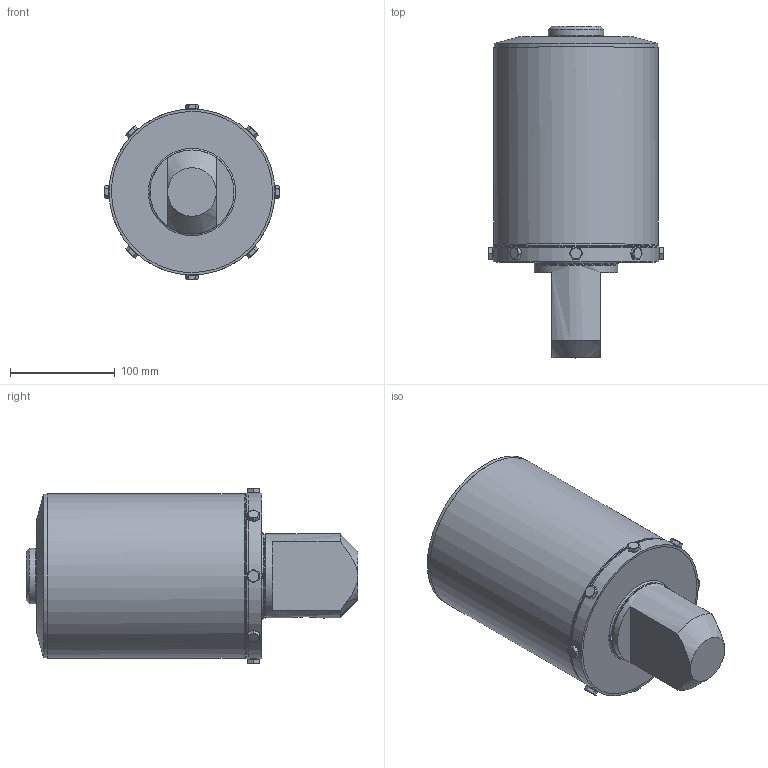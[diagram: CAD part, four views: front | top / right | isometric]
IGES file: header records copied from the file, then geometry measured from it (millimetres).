
Global section: file name: W60 6 IN ACTUATOR; native system: Autodesk Inventor 2020; preprocessor: unknown; date: 20210423.112937; units: inch
Bounding box: 166.83 x 316.69 x 166.83 mm (x, y, z)
Volume: 4908419.6 mm3; surface area: 276288.7 mm2
Topology: 12 solids, 12 shells, 174 faces, 439 edges, 311 vertices
Faces by surface type: bspline 174
